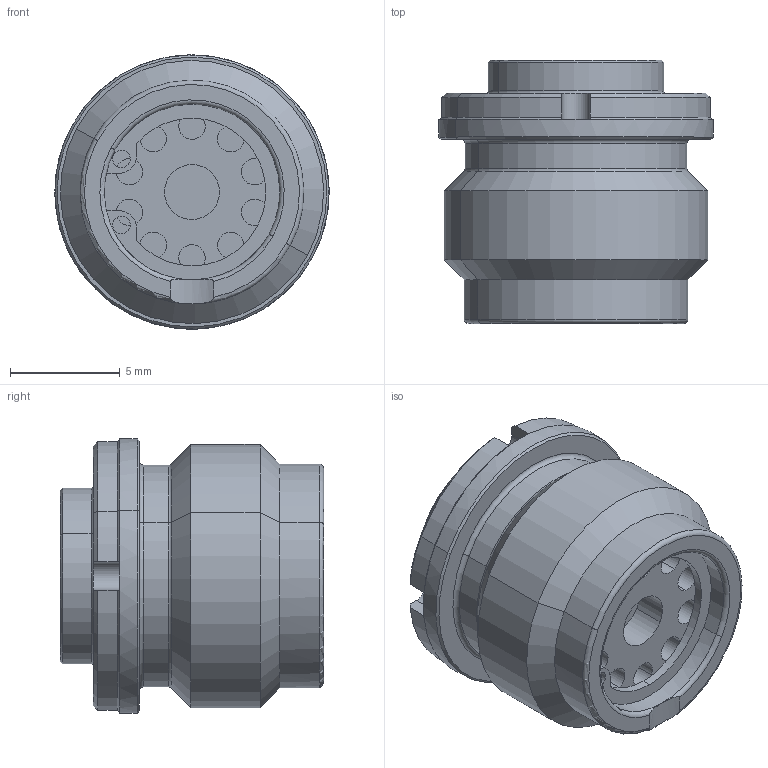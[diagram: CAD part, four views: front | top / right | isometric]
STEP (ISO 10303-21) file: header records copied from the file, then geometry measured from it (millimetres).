
FILE_DESCRIPTION(('CATIA V5 STEP Exchange'),'2;1');
FILE_NAME('\\Kjf-102\kjf_tc\Hydraulic_Clamp\Standard\AUTO_COUPLER\ACA-1208\ACA-12081_-_.stp','2026-08-25T04:21:40+00:00',('none'),('none'),'CATIA Version 5 Release 19 SP 6 (IN-10)','CATIA V5 STEP AP203','none');
FILE_SCHEMA(('CONFIG_CONTROL_DESIGN'));
Length unit declared in the file: millimetre
Products named in the file (1): ACA-12081_-_
Assembly tree (4 placements, depth 2):
  ACA-12081_-_
    #58
    #2277
    #2975
    #3794
Bounding box: 12.5 x 12 x 12.5 mm (x, y, z)
Volume: 1036.1 mm3; surface area: 1058.3 mm2
Topology: 4 solids, 4 shells, 131 faces, 312 edges, 194 vertices
Faces by surface type: cylinder 62, plane 30, cone 24, torus 12, extrusion 3
Entity records: 3922 total; most frequent: CARTESIAN_POINT 976, ORIENTED_EDGE 624, DIRECTION 468, EDGE_CURVE 312, AXIS2_PLACEMENT_3D 256, VERTEX_POINT 194, CIRCLE 165, EDGE_LOOP 162
